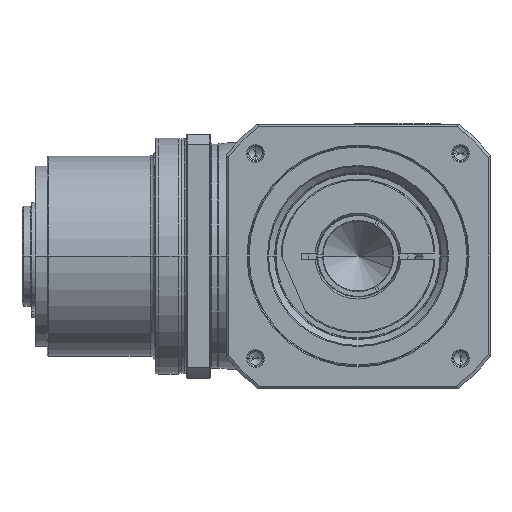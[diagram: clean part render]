
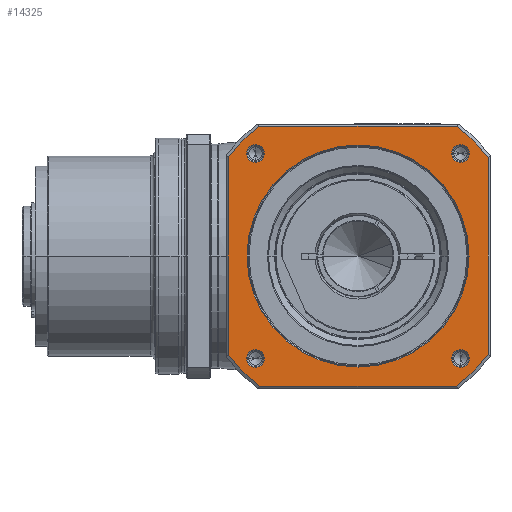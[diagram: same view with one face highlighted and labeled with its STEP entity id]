
A CAD part, front view. The second image highlights one B-rep face of the part: STEP entity #14325.
In plain terms, the highlighted planar face has unit normal (0, -1, 0) as drawn and (0, 0, 1) by its records, which use the part's own axes.
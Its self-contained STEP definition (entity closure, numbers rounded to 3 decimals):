
#13210=CARTESIAN_POINT('',(0.,0.,
54.));
#13211=DIRECTION('',(0.,0.,-1.));
#13212=DIRECTION('',(0.,-1.,0.));
#13213=AXIS2_PLACEMENT_3D('',#13210,#13211,#13212);
#13215=CARTESIAN_POINT('',(0.,0.,
54.));
#13216=DIRECTION('',(0.,0.,-1.));
#13217=DIRECTION('',(0.,1.,0.));
#13218=AXIS2_PLACEMENT_3D('',#13215,#13216,#13217);
#13220=CARTESIAN_POINT('',(51.265,51.265,54.));
#13221=DIRECTION('',(0.,0.,-1.));
#13222=DIRECTION('',(1.,0.,0.));
#13223=AXIS2_PLACEMENT_3D('',#13220,#13221,#13222);
#13225=CARTESIAN_POINT('',(51.265,51.265,54.));
#13226=DIRECTION('',(0.,0.,-1.));
#13227=DIRECTION('',(-1.,0.,0.));
#13228=AXIS2_PLACEMENT_3D('',#13225,#13226,#13227);
#13230=CARTESIAN_POINT('',(-51.265,51.265,
54.));
#13231=DIRECTION('',(0.,0.,-1.));
#13232=DIRECTION('',(0.,1.,0.));
#13233=AXIS2_PLACEMENT_3D('',#13230,#13231,#13232);
#13235=CARTESIAN_POINT('',(-51.265,51.265,
54.));
#13236=DIRECTION('',(0.,0.,-1.));
#13237=DIRECTION('',(0.,-1.,0.));
#13238=AXIS2_PLACEMENT_3D('',#13235,#13236,#13237);
#13240=CARTESIAN_POINT('',(-51.265,-51.265,
54.));
#13241=DIRECTION('',(0.,0.,-1.));
#13242=DIRECTION('',(-1.,0.,0.));
#13243=AXIS2_PLACEMENT_3D('',#13240,#13241,#13242);
#13245=CARTESIAN_POINT('',(-51.265,-51.265,
54.));
#13246=DIRECTION('',(0.,0.,-1.));
#13247=DIRECTION('',(1.,0.,0.));
#13248=AXIS2_PLACEMENT_3D('',#13245,#13246,#13247);
#13250=CARTESIAN_POINT('',(51.265,-51.265,
54.));
#13251=DIRECTION('',(0.,0.,-1.));
#13252=DIRECTION('',(0.,-1.,0.));
#13253=AXIS2_PLACEMENT_3D('',#13250,#13251,#13252);
#13255=CARTESIAN_POINT('',(51.265,-51.265,
54.));
#13256=DIRECTION('',(0.,0.,-1.));
#13257=DIRECTION('',(0.,1.,0.));
#13258=AXIS2_PLACEMENT_3D('',#13255,#13256,#13257);
#13260=DIRECTION('',(1.,0.,0.));
#13261=VECTOR('',#13260,98.331);
#13262=CARTESIAN_POINT('',(-49.166,65.,54.));
#13263=LINE('',#13262,#13261);
#13264=CARTESIAN_POINT('',(0.,0.,54.));
#13265=DIRECTION('',(0.,0.,-1.));
#13266=DIRECTION('',(0.603,0.798,0.));
#13267=AXIS2_PLACEMENT_3D('',#13264,#13265,#13266);
#13269=DIRECTION('',(0.,1.,0.));
#13270=VECTOR('',#13269,98.331);
#13271=CARTESIAN_POINT('',(65.,-49.166,54.));
#13272=LINE('',#13271,#13270);
#13273=DIRECTION('',(1.,0.,0.));
#13274=VECTOR('',#13273,98.331);
#13275=CARTESIAN_POINT('',(-49.166,-65.,54.));
#13276=LINE('',#13275,#13274);
#13277=CARTESIAN_POINT('',(0.,0.,54.));
#13278=DIRECTION('',(0.,0.,-1.));
#13279=DIRECTION('',(-0.603,-0.798,0.));
#13280=AXIS2_PLACEMENT_3D('',#13277,#13278,#13279);
#13282=DIRECTION('',(0.,1.,0.));
#13283=VECTOR('',#13282,98.331);
#13284=CARTESIAN_POINT('',(-65.,-49.166,54.));
#13285=LINE('',#13284,#13283);
#13649=CARTESIAN_POINT('',(0.,0.,54.));
#13650=DIRECTION('',(0.,0.,1.));
#13651=DIRECTION('',(-0.603,0.798,0.));
#13652=AXIS2_PLACEMENT_3D('',#13649,#13650,#13651);
#13664=CARTESIAN_POINT('',(0.,0.,54.));
#13665=DIRECTION('',(0.,0.,1.));
#13666=DIRECTION('',(0.603,-0.798,0.));
#13667=AXIS2_PLACEMENT_3D('',#13664,#13665,#13666);
#13669=CARTESIAN_POINT('',(49.166,-65.,54.));
#13742=CARTESIAN_POINT('',(65.,-49.166,54.));
#13788=CARTESIAN_POINT('',(-49.166,65.,54.));
#13866=CARTESIAN_POINT('',(-65.,49.166,54.));
#14076=CARTESIAN_POINT('',(55.665,51.265,54.));
#14077=CARTESIAN_POINT('',(46.865,51.265,54.));
#14078=VERTEX_POINT('',#14076);
#14079=VERTEX_POINT('',#14077);
#14102=CARTESIAN_POINT('',(-51.265,55.665,
54.));
#14103=CARTESIAN_POINT('',(-51.265,46.865,
54.));
#14104=VERTEX_POINT('',#14102);
#14105=VERTEX_POINT('',#14103);
#14110=CARTESIAN_POINT('',(-55.665,-51.265,
54.));
#14111=CARTESIAN_POINT('',(-46.865,-51.265,
54.));
#14112=VERTEX_POINT('',#14110);
#14113=VERTEX_POINT('',#14111);
#14118=CARTESIAN_POINT('',(51.265,-55.665,
54.));
#14119=CARTESIAN_POINT('',(51.265,-46.865,
54.));
#14120=VERTEX_POINT('',#14118);
#14121=VERTEX_POINT('',#14119);
#14158=CARTESIAN_POINT('',(0.,-55.5,
54.));
#14159=CARTESIAN_POINT('',(0.,55.5,54.));
#14160=VERTEX_POINT('',#14158);
#14161=VERTEX_POINT('',#14159);
#14174=CARTESIAN_POINT('',(49.166,65.,54.));
#14175=CARTESIAN_POINT('',(65.,49.166,54.));
#14176=VERTEX_POINT('',#14174);
#14177=VERTEX_POINT('',#14175);
#14178=CARTESIAN_POINT('',(-49.166,-65.,54.));
#14179=CARTESIAN_POINT('',(-65.,-49.166,54.));
#14180=VERTEX_POINT('',#14178);
#14181=VERTEX_POINT('',#14179);
#14191=VERTEX_POINT('',#13866);
#14192=VERTEX_POINT('',#13669);
#14195=VERTEX_POINT('',#13742);
#14196=VERTEX_POINT('',#13788);
#14273=CARTESIAN_POINT('',(0.,0.,54.));
#14274=DIRECTION('',(0.,0.,1.));
#14275=DIRECTION('',(1.,0.,0.));
#14276=AXIS2_PLACEMENT_3D('',#14273,#14274,#14275);
#14277=PLANE('',#14276);
#14279=ORIENTED_EDGE('',*,*,#14278,.F.);
#14281=ORIENTED_EDGE('',*,*,#14280,.T.);
#14283=ORIENTED_EDGE('',*,*,#14282,.T.);
#14285=ORIENTED_EDGE('',*,*,#14284,.F.);
#14287=ORIENTED_EDGE('',*,*,#14286,.F.);
#14289=ORIENTED_EDGE('',*,*,#14288,.F.);
#14291=ORIENTED_EDGE('',*,*,#14290,.T.);
#14293=ORIENTED_EDGE('',*,*,#14292,.T.);
#14294=EDGE_LOOP('',(#14279,#14281,#14283,#14285,#14287,#14289,#14291,#14293));
#14295=FACE_OUTER_BOUND('',#14294,.F.);
#14297=ORIENTED_EDGE('',*,*,#14296,.F.);
#14299=ORIENTED_EDGE('',*,*,#14298,.F.);
#14300=EDGE_LOOP('',(#14297,#14299));
#14301=FACE_BOUND('',#14300,.F.);
#14303=ORIENTED_EDGE('',*,*,#14302,.F.);
#14305=ORIENTED_EDGE('',*,*,#14304,.F.);
#14306=EDGE_LOOP('',(#14303,#14305));
#14307=FACE_BOUND('',#14306,.F.);
#14309=ORIENTED_EDGE('',*,*,#14308,.F.);
#14311=ORIENTED_EDGE('',*,*,#14310,.F.);
#14312=EDGE_LOOP('',(#14309,#14311));
#14313=FACE_BOUND('',#14312,.F.);
#14315=ORIENTED_EDGE('',*,*,#14314,.F.);
#14317=ORIENTED_EDGE('',*,*,#14316,.F.);
#14318=EDGE_LOOP('',(#14315,#14317));
#14319=FACE_BOUND('',#14318,.F.);
#14320=ORIENTED_EDGE('',*,*,#14263,.F.);
#14322=ORIENTED_EDGE('',*,*,#14321,.F.);
#14323=EDGE_LOOP('',(#14320,#14322));
#14324=FACE_BOUND('',#14323,.F.);
#14325=ADVANCED_FACE('',(#14295,#14301,#14307,#14313,#14319,#14324),#14277,.T.);
#13214=CIRCLE('',#13213,55.5);
#13219=CIRCLE('',#13218,55.5);
#13224=CIRCLE('',#13223,4.4);
#13229=CIRCLE('',#13228,4.4);
#13234=CIRCLE('',#13233,4.4);
#13239=CIRCLE('',#13238,4.4);
#13244=CIRCLE('',#13243,4.4);
#13249=CIRCLE('',#13248,4.4);
#13254=CIRCLE('',#13253,4.4);
#13259=CIRCLE('',#13258,4.4);
#13268=CIRCLE('',#13267,81.5);
#13281=CIRCLE('',#13280,81.5);
#13653=CIRCLE('',#13652,81.5);
#13668=CIRCLE('',#13667,81.5);
#14263=EDGE_CURVE('',#14120,#14121,#13254,.T.);
#14278=EDGE_CURVE('',#14196,#14191,#13653,.T.);
#14280=EDGE_CURVE('',#14196,#14176,#13263,.T.);
#14282=EDGE_CURVE('',#14176,#14177,#13268,.T.);
#14284=EDGE_CURVE('',#14195,#14177,#13272,.T.);
#14286=EDGE_CURVE('',#14192,#14195,#13668,.T.);
#14288=EDGE_CURVE('',#14180,#14192,#13276,.T.);
#14290=EDGE_CURVE('',#14180,#14181,#13281,.T.);
#14292=EDGE_CURVE('',#14181,#14191,#13285,.T.);
#14296=EDGE_CURVE('',#14160,#14161,#13214,.T.);
#14298=EDGE_CURVE('',#14161,#14160,#13219,.T.);
#14302=EDGE_CURVE('',#14078,#14079,#13224,.T.);
#14304=EDGE_CURVE('',#14079,#14078,#13229,.T.);
#14308=EDGE_CURVE('',#14104,#14105,#13234,.T.);
#14310=EDGE_CURVE('',#14105,#14104,#13239,.T.);
#14314=EDGE_CURVE('',#14112,#14113,#13244,.T.);
#14316=EDGE_CURVE('',#14113,#14112,#13249,.T.);
#14321=EDGE_CURVE('',#14121,#14120,#13259,.T.);
